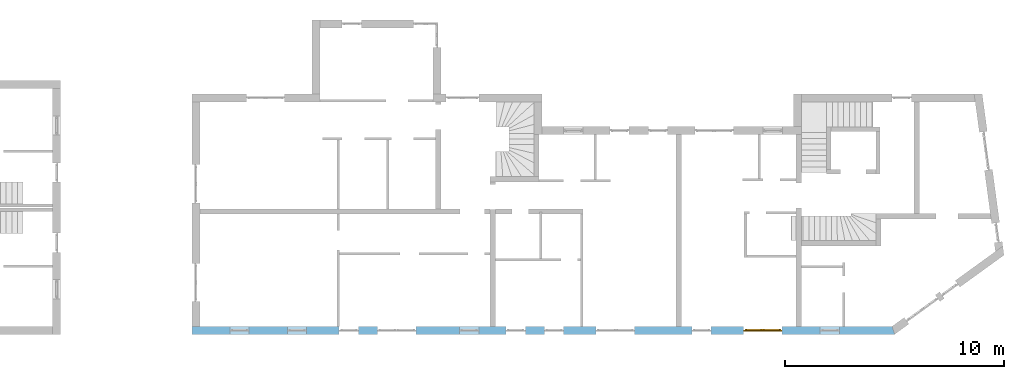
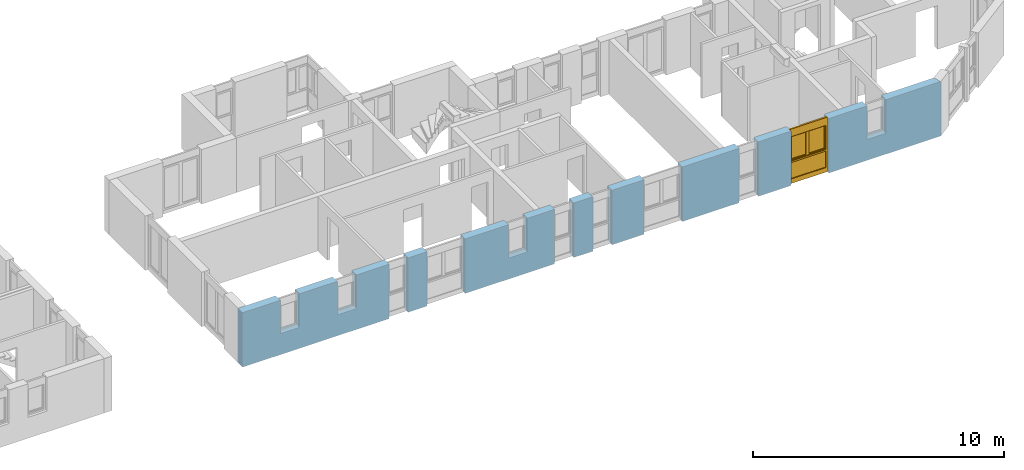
# One storey, part 23 of 42: 1 window, 11 openings, plus 1 element that does not belong to this part.
"""IFC2X3 building model written with IfcOpenShell, lengths in millimetres."""

from ifc_helpers import new_model, entity, si_unit, converted_unit, frame, frame_2d, origin, origin_with_axes, place, context, subcontext, project, spatial, polyline, rectangle, outline, extrude, faceted_brep, material, layer, layer_set, layer_usage, type_object, element, fill, save


model = new_model("IFC2X3")

# Units and contexts
model_context = context("Model", 3, precision=1e-05, world=origin())
body_context = subcontext(model_context, "Body", "Model", "MODEL_VIEW")
ifc_project = project(units=[si_unit("LENGTHUNIT", "METRE", prefix="MILLI"), converted_unit("PLANEANGLEUNIT", "DEGREE", entity("IfcPlaneAngleMeasure", 0.0174532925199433), si_unit("PLANEANGLEUNIT", "RADIAN"), dimensions=[0, 0, 0, 0, 0, 0, 0]), si_unit("AREAUNIT", "SQUARE_METRE"), si_unit("VOLUMEUNIT", "CUBIC_METRE")], contexts=[model_context])

# Building, storey
building_placement = place(None, origin())
building = spatial("IfcBuilding", under=ifc_project, at=building_placement, Name="Gebäude", CompositionType="ELEMENT")
storey_placement = place(building_placement, frame((0.0, 0.0, 2730.0), z_axis=(0.0, 0.0, 1.0), x_axis=(1.0, 0.0, 0.0)))
storey = spatial("IfcBuildingStorey", under=building, at=storey_placement, Name="OG.- Grundriss", CompositionType="ELEMENT", Elevation=2730.0)

# Wall, openings, window
ifc_material_1 = material(Name="Poroton")
ifc_layer = layer(ifc_material_1, 365.0000000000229)
ifc_layer_set = layer_set([ifc_layer])
ifc_layer_usage = layer_usage(ifc_layer_set, "AXIS2", "POSITIVE", 0.0)
wall_placement = place(storey_placement, frame((148357.7928067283, 125274.8877324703, 0.0), z_axis=(0.0, 0.0, 1.0), x_axis=(1.0, -2.749268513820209e-11, 0.0)))
wall = element("IfcWallStandardCase", 1, at=wall_placement, inside=storey, material=ifc_layer_usage, Name="<Unnamed Element>", context=body_context, shape_type="SweptSolid", body=[
    extrude(outline(polyline([(0.0, 0.0), (32144.99999877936, 0.0), (32026.74038666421, 365.0000000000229), (-1.003483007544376e-08, 365.0), (0.0, 0.0)])), origin_with_axes(), (0.0, 0.0, 1.0), 2650.0),
])
opening_1_placement = place(wall_placement, frame((22865.29648749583, -9.393166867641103e-11, 0.0), z_axis=(0.0, 1.0, 0.0), x_axis=(0.0, 0.0, 1.0)))
element("IfcOpeningElement", 2, at=opening_1_placement, cuts=wall, Name="Fensteröffnung", ObjectType="Opening", context=body_context, shape_type="SweptSolid", body=[
    extrude(rectangle(XDim=2650.0, YDim=885.0, at=frame_2d((1325.0, 442.5), x_axis=(1.0, 0.0))), origin_with_axes(), (0.0, 0.0, 1.0), 365.0000000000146),
])
opening_2_placement = place(wall_placement, frame((25240.29648749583, -1.030266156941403e-10, 0.0), z_axis=(0.0, 1.0, 0.0), x_axis=(0.0, 0.0, 1.0)))
opening_2 = element("IfcOpeningElement", 3, at=opening_2_placement, cuts=wall, Name="Fensteröffnung", ObjectType="Opening", context=body_context, shape_type="SweptSolid", body=[
    extrude(rectangle(XDim=2650.0, YDim=1760.0, at=frame_2d((1325.0, 880.0), x_axis=(1.0, 0.0))), origin_with_axes(), (0.0, 0.0, 1.0), 365.0000000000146),
])
opening_3_placement = place(wall_placement, frame((14365.26291869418, -5.847463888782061e-11, 0.0), z_axis=(0.0, 1.0, 0.0), x_axis=(0.0, 0.0, 1.0)))
element("IfcOpeningElement", 4, at=opening_3_placement, cuts=wall, Name="Fensteröffnung", ObjectType="Opening", context=body_context, shape_type="SweptSolid", body=[
    extrude(rectangle(XDim=2650.0, YDim=885.0, at=frame_2d((1325.0, 442.5), x_axis=(1.0, 0.0))), origin_with_axes(), (0.0, 0.0, 1.0), 365.0000000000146),
])
opening_4_placement = place(wall_placement, frame((16123.92212975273, -7.146586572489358e-11, 0.0), z_axis=(0.0, 1.0, 0.0), x_axis=(0.0, 0.0, 1.0)))
element("IfcOpeningElement", 5, at=opening_4_placement, cuts=wall, Name="Fensteröffnung", ObjectType="Opening", context=body_context, shape_type="SweptSolid", body=[
    extrude(rectangle(XDim=2650.0, YDim=885.0, at=frame_2d((1325.0, 442.5), x_axis=(1.0, 0.0))), origin_with_axes(), (0.0, 0.0, 1.0), 365.0000000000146),
])
opening_5_placement = place(wall_placement, frame((6739.999999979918, -3.114109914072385e-11, 0.0), z_axis=(0.0, 1.0, 0.0), x_axis=(0.0, 0.0, 1.0)))
element("IfcOpeningElement", 6, at=opening_5_placement, cuts=wall, Name="Fensteröffnung", ObjectType="Opening", context=body_context, shape_type="SweptSolid", body=[
    extrude(rectangle(XDim=2650.0, YDim=885.0, at=frame_2d((1325.0, 442.5), x_axis=(1.0, 0.0))), origin_with_axes(), (0.0, 0.0, 1.0), 365.0000000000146),
])
opening_6_placement = place(wall_placement, frame((8489.999999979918, -3.477907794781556e-11, 0.0), z_axis=(0.0, 1.0, 0.0), x_axis=(0.0, 0.0, 1.0)))
element("IfcOpeningElement", 7, at=opening_6_placement, cuts=wall, Name="Fensteröffnung", ObjectType="Opening", context=body_context, shape_type="SweptSolid", body=[
    extrude(rectangle(XDim=2650.0, YDim=1760.0, at=frame_2d((1325.0, 880.0), x_axis=(1.0, 0.0))), origin_with_axes(), (0.0, 0.0, 1.0), 365.0000000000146),
])
opening_7_placement = place(wall_placement, frame((1740.0, -3.114109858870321e-11, 1020.0), z_axis=(0.0, 1.0, 0.0), x_axis=(0.0, 0.0, 1.0)))
element("IfcOpeningElement", 8, at=opening_7_placement, cuts=wall, Name="Fensteröffnung", ObjectType="Opening", context=body_context, shape_type="SweptSolid", body=[
    extrude(rectangle(XDim=1630.0, YDim=885.0, at=frame_2d((815.0, 442.5), x_axis=(1.0, 0.0))), origin_with_axes(), (0.0, 0.0, 1.0), 365.0000000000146),
])
opening_8_placement = place(wall_placement, frame((4365.0, -7.494236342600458e-12, 1020.0), z_axis=(0.0, 1.0, 0.0), x_axis=(0.0, 0.0, 1.0)))
element("IfcOpeningElement", 9, at=opening_8_placement, cuts=wall, Name="Fensteröffnung", ObjectType="Opening", context=body_context, shape_type="SweptSolid", body=[
    extrude(rectangle(XDim=1630.0, YDim=885.0, at=frame_2d((815.0, 442.5), x_axis=(1.0, 0.0))), origin_with_axes(), (0.0, 0.0, 1.0), 365.0000000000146),
])
opening_9_placement = place(wall_placement, frame((12240.0, -5.296897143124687e-11, 1020.0), z_axis=(0.0, 1.0, 0.0), x_axis=(0.0, 0.0, 1.0)))
element("IfcOpeningElement", 10, at=opening_9_placement, cuts=wall, Name="Fensteröffnung", ObjectType="Opening", context=body_context, shape_type="SweptSolid", body=[
    extrude(rectangle(XDim=1630.0, YDim=885.0, at=frame_2d((815.0, 442.5), x_axis=(1.0, 0.0))), origin_with_axes(), (0.0, 0.0, 1.0), 365.0000000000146),
])
opening_10_placement = place(wall_placement, frame((18490.51063065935, -4.984640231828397e-11, 0.0), z_axis=(0.0, 1.0, 0.0), x_axis=(0.0, 0.0, 1.0)))
element("IfcOpeningElement", 11, at=opening_10_placement, cuts=wall, Name="Fensteröffnung", ObjectType="Opening", context=body_context, shape_type="SweptSolid", body=[
    extrude(rectangle(XDim=2650.0, YDim=1760.0, at=frame_2d((1325.0, 880.0), x_axis=(1.0, 0.0))), origin_with_axes(), (0.0, 0.0, 1.0), 365.0000000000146),
])
opening_11_placement = place(wall_placement, frame((28740.29648749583, -1.103025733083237e-10, 1020.0), z_axis=(0.0, 1.0, 0.0), x_axis=(0.0, 0.0, 1.0)))
element("IfcOpeningElement", 12, at=opening_11_placement, cuts=wall, Name="Fensteröffnung", ObjectType="Opening", context=body_context, shape_type="SweptSolid", body=[
    extrude(rectangle(XDim=1630.0, YDim=885.0, at=frame_2d((815.0, 442.5), x_axis=(1.0, 0.0))), origin_with_axes(), (0.0, 0.0, 1.0), 365.0000000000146),
])
ifc_material_2 = material()
window_style = type_object("IfcWindowStyle", Name="Fenster", ConstructionType="NOTDEFINED", OperationType="USERDEFINED", ParameterTakesPrecedence=False, Sizeable=False)
window_placement = place(opening_2_placement, frame((0.0, 0.0, 0.0), z_axis=(1.0, 0.0, 0.0), x_axis=(0.0, 1.0, 0.0)))
window = element("IfcWindow", 13, at=window_placement, inside=storey, type_object=window_style, material=ifc_material_2, Name="Fenster", OverallHeight=2650.0, OverallWidth=1760.0, context=body_context, shape_type="Brep", body=[
    faceted_brep([(1760.000000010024, 200.0000000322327, 2650.0), (1690.000000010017, 200.0000000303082, 2650.0), (1690.000000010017, 200.000000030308, -2.449293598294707e-15), (1760.000000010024, 200.0000000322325, -2.449293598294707e-15), (1760.000000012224, 119.9999999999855, 2.449293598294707e-15), (1690.000000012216, 119.999999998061, 2.449293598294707e-15), (1690.000000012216, 119.9999999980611, 2650.0), (1760.000000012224, 119.9999999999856, 2650.0), (1760.000000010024, 200.0000000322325, -2.449293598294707e-15), (1760.000000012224, 119.9999999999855, 2.449293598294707e-15), (1760.000000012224, 119.9999999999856, 2650.0), (1760.000000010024, 200.0000000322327, 2650.0), (1690.000000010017, 200.000000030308, -2.449293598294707e-15), (1690.000000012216, 119.999999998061, 2.449293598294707e-15), (1760.000000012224, 119.9999999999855, 2.449293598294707e-15), (1760.000000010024, 200.0000000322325, -2.449293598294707e-15), (1690.000000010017, 200.0000000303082, 2650.0), (1690.000000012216, 119.9999999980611, 2650.0), (1690.000000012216, 119.999999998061, 2.449293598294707e-15), (1690.000000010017, 200.000000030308, -2.449293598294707e-15), (1760.000000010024, 200.0000000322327, 2650.0), (1760.000000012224, 119.9999999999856, 2650.0), (1690.000000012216, 119.9999999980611, 2650.0), (1690.000000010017, 200.0000000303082, 2650.0)], [[[0, 1, 2, 3]], [[4, 5, 6, 7]], [[8, 9, 10, 11]], [[12, 13, 14, 15]], [[16, 17, 18, 19]], [[20, 21, 22, 23]]], orient=[[False], [False], [False], [False], [False], [False]]),
    faceted_brep([(69.99999999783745, 199.99999998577, 2650.0), (-2.17028173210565e-09, 199.9999999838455, 2650.0), (-2.17028173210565e-09, 199.9999999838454, -2.449293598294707e-15), (69.99999999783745, 199.9999999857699, -2.449293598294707e-15), (70.00000000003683, 119.9999999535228, 2.449293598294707e-15), (2.91038304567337e-11, 119.9999999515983, 2.449293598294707e-15), (2.91038304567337e-11, 119.9999999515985, 2650.0), (70.00000000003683, 119.999999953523, 2650.0), (69.99999999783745, 199.9999999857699, -2.449293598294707e-15), (70.00000000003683, 119.9999999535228, 2.449293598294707e-15), (70.00000000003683, 119.999999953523, 2650.0), (69.99999999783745, 199.99999998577, 2650.0), (-2.17028173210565e-09, 199.9999999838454, -2.449293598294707e-15), (2.91038304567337e-11, 119.9999999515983, 2.449293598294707e-15), (70.00000000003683, 119.9999999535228, 2.449293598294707e-15), (69.99999999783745, 199.9999999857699, -2.449293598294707e-15), (-2.17028173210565e-09, 199.9999999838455, 2650.0), (2.91038304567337e-11, 119.9999999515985, 2650.0), (2.91038304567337e-11, 119.9999999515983, 2.449293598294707e-15), (-2.17028173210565e-09, 199.9999999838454, -2.449293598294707e-15), (69.99999999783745, 199.99999998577, 2650.0), (70.00000000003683, 119.999999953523, 2650.0), (2.91038304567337e-11, 119.9999999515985, 2650.0), (-2.17028173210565e-09, 199.9999999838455, 2650.0)], [[[0, 1, 2, 3]], [[4, 5, 6, 7]], [[8, 9, 10, 11]], [[12, 13, 14, 15]], [[16, 17, 18, 19]], [[20, 21, 22, 23]]], orient=[[False], [False], [False], [False], [False], [False]]),
    faceted_brep([(1690.000000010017, 200.000000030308, 220.0), (69.99999999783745, 199.9999999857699, 220.0), (69.99999999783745, 199.9999999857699, -2.449293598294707e-15), (1690.000000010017, 200.000000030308, -2.449293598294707e-15), (1690.000000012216, 119.999999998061, 2.449293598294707e-15), (70.00000000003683, 119.9999999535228, 2.449293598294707e-15), (70.00000000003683, 119.9999999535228, 220.0), (1690.000000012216, 119.999999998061, 220.0), (1690.000000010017, 200.000000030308, -2.449293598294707e-15), (1690.000000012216, 119.999999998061, 2.449293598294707e-15), (1690.000000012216, 119.999999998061, 220.0), (1690.000000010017, 200.000000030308, 220.0), (69.99999999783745, 199.9999999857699, -2.449293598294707e-15), (70.00000000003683, 119.9999999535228, 2.449293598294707e-15), (1690.000000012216, 119.999999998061, 2.449293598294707e-15), (1690.000000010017, 200.000000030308, -2.449293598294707e-15), (69.99999999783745, 199.9999999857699, 220.0), (70.00000000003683, 119.9999999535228, 220.0), (70.00000000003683, 119.9999999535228, 2.449293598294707e-15), (69.99999999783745, 199.9999999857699, -2.449293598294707e-15), (1690.000000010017, 200.000000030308, 220.0), (1690.000000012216, 119.999999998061, 220.0), (70.00000000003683, 119.9999999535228, 220.0), (69.99999999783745, 199.9999999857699, 220.0)], [[[0, 1, 2, 3]], [[4, 5, 6, 7]], [[8, 9, 10, 11]], [[12, 13, 14, 15]], [[16, 17, 18, 19]], [[20, 21, 22, 23]]], orient=[[False], [False], [False], [False], [False], [False]]),
    faceted_brep([(1690.000000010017, 200.0000000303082, 2650.0), (69.99999999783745, 199.9999999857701, 2650.0), (69.99999999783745, 199.99999998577, 2280.0), (1690.000000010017, 200.0000000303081, 2280.0), (1690.000000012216, 119.9999999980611, 2280.0), (70.00000000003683, 119.999999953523, 2280.0), (70.00000000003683, 119.999999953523, 2650.0), (1690.000000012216, 119.9999999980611, 2650.0), (1690.000000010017, 200.0000000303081, 2280.0), (1690.000000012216, 119.9999999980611, 2280.0), (1690.000000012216, 119.9999999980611, 2650.0), (1690.000000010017, 200.0000000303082, 2650.0), (69.99999999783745, 199.99999998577, 2280.0), (70.00000000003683, 119.999999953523, 2280.0), (1690.000000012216, 119.9999999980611, 2280.0), (1690.000000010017, 200.0000000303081, 2280.0), (69.99999999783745, 199.9999999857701, 2650.0), (70.00000000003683, 119.999999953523, 2650.0), (70.00000000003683, 119.999999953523, 2280.0), (69.99999999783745, 199.99999998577, 2280.0), (1690.000000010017, 200.0000000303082, 2650.0), (1690.000000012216, 119.9999999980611, 2650.0), (70.00000000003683, 119.999999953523, 2650.0), (69.99999999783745, 199.9999999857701, 2650.0)], [[[0, 1, 2, 3]], [[4, 5, 6, 7]], [[8, 9, 10, 11]], [[12, 13, 14, 15]], [[16, 17, 18, 19]], [[20, 21, 22, 23]]], orient=[[False], [False], [False], [False], [False], [False]]),
    faceted_brep([(1690.000000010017, 200.0000000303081, 1090.0), (69.99999999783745, 199.9999999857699, 1090.0), (69.99999999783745, 199.9999999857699, 1020.0), (1690.000000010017, 200.0000000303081, 1020.0), (1690.000000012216, 119.999999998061, 1020.0), (70.00000000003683, 119.9999999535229, 1020.0), (70.00000000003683, 119.9999999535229, 1090.0), (1690.000000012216, 119.999999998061, 1090.0), (1690.000000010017, 200.0000000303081, 1020.0), (1690.000000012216, 119.999999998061, 1020.0), (1690.000000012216, 119.999999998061, 1090.0), (1690.000000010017, 200.0000000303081, 1090.0), (69.99999999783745, 199.9999999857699, 1020.0), (70.00000000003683, 119.9999999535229, 1020.0), (1690.000000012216, 119.999999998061, 1020.0), (1690.000000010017, 200.0000000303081, 1020.0), (69.99999999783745, 199.9999999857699, 1090.0), (70.00000000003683, 119.9999999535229, 1090.0), (70.00000000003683, 119.9999999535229, 1020.0), (69.99999999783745, 199.9999999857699, 1020.0), (1690.000000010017, 200.0000000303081, 1090.0), (1690.000000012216, 119.999999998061, 1090.0), (70.00000000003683, 119.9999999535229, 1090.0), (69.99999999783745, 199.9999999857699, 1090.0)], [[[0, 1, 2, 3]], [[4, 5, 6, 7]], [[8, 9, 10, 11]], [[12, 13, 14, 15]], [[16, 17, 18, 19]], [[20, 21, 22, 23]]], orient=[[False], [False], [False], [False], [False], [False]]),
    faceted_brep([(1690.000000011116, 160.0000000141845, 220.0), (1690.000000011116, 160.0000000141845, 1020.0), (69.99999999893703, 159.9999999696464, 1020.0), (69.99999999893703, 159.9999999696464, 220.0), (1690.000000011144, 159.0000000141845, 220.0), (69.99999999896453, 158.9999999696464, 220.0), (69.99999999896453, 158.9999999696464, 1020.0), (1690.000000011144, 159.0000000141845, 1020.0), (1690.000000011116, 160.0000000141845, 220.0), (1690.000000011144, 159.0000000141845, 220.0), (1690.000000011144, 159.0000000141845, 1020.0), (1690.000000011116, 160.0000000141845, 1020.0), (1690.000000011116, 160.0000000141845, 1020.0), (1690.000000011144, 159.0000000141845, 1020.0), (69.99999999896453, 158.9999999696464, 1020.0), (69.99999999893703, 159.9999999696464, 1020.0), (69.99999999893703, 159.9999999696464, 1020.0), (69.99999999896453, 158.9999999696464, 1020.0), (69.99999999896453, 158.9999999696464, 220.0), (69.99999999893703, 159.9999999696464, 220.0), (69.99999999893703, 159.9999999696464, 220.0), (69.99999999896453, 158.9999999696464, 220.0), (1690.000000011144, 159.0000000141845, 220.0), (1690.000000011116, 160.0000000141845, 220.0)], [[[0, 1, 2, 3]], [[4, 5, 6, 7]], [[8, 9, 10, 11]], [[12, 13, 14, 15]], [[16, 17, 18, 19]], [[20, 21, 22, 23]]], orient=[[False], [False], [False], [False], [False], [False]]),
    faceted_brep([(1710.000000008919, 240.0000000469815, 2300.0), (1640.000000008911, 240.000000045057, 2300.0), (1640.000000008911, 240.0000000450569, 1070.0), (1710.000000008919, 240.0000000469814, 1070.0), (1710.000000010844, 170.0000000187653, 1070.0), (1640.000000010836, 170.0000000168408, 1070.0), (1640.000000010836, 170.0000000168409, 2300.0), (1710.000000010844, 170.0000000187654, 2300.0), (1710.000000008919, 240.0000000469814, 1070.0), (1710.000000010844, 170.0000000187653, 1070.0), (1710.000000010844, 170.0000000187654, 2300.0), (1710.000000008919, 240.0000000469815, 2300.0), (1640.000000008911, 240.0000000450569, 1070.0), (1640.000000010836, 170.0000000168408, 1070.0), (1710.000000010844, 170.0000000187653, 1070.0), (1710.000000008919, 240.0000000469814, 1070.0), (1640.000000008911, 240.000000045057, 2300.0), (1640.000000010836, 170.0000000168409, 2300.0), (1640.000000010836, 170.0000000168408, 1070.0), (1640.000000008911, 240.0000000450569, 1070.0), (1710.000000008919, 240.0000000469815, 2300.0), (1710.000000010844, 170.0000000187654, 2300.0), (1640.000000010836, 170.0000000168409, 2300.0), (1640.000000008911, 240.000000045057, 2300.0)], [[[0, 1, 2, 3]], [[4, 5, 6, 7]], [[8, 9, 10, 11]], [[12, 13, 14, 15]], [[16, 17, 18, 19]], [[20, 21, 22, 23]]], orient=[[False], [False], [False], [False], [False], [False]]),
    faceted_brep([(930.5000000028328, 240.000000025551, 2300.0), (860.5000000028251, 240.0000000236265, 2300.0), (860.5000000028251, 240.0000000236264, 1070.0), (930.5000000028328, 240.0000000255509, 1070.0), (930.5000000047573, 169.9999999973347, 1070.0), (860.5000000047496, 169.9999999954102, 1070.0), (860.5000000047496, 169.9999999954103, 2300.0), (930.5000000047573, 169.9999999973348, 2300.0), (930.5000000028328, 240.0000000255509, 1070.0), (930.5000000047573, 169.9999999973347, 1070.0), (930.5000000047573, 169.9999999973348, 2300.0), (930.5000000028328, 240.000000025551, 2300.0), (860.5000000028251, 240.0000000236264, 1070.0), (860.5000000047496, 169.9999999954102, 1070.0), (930.5000000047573, 169.9999999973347, 1070.0), (930.5000000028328, 240.0000000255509, 1070.0), (860.5000000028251, 240.0000000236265, 2300.0), (860.5000000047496, 169.9999999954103, 2300.0), (860.5000000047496, 169.9999999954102, 1070.0), (860.5000000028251, 240.0000000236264, 1070.0), (930.5000000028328, 240.000000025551, 2300.0), (930.5000000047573, 169.9999999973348, 2300.0), (860.5000000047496, 169.9999999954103, 2300.0), (860.5000000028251, 240.0000000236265, 2300.0)], [[[0, 1, 2, 3]], [[4, 5, 6, 7]], [[8, 9, 10, 11]], [[12, 13, 14, 15]], [[16, 17, 18, 19]], [[20, 21, 22, 23]]], orient=[[False], [False], [False], [False], [False], [False]]),
    faceted_brep([(1640.000000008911, 240.0000000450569, 1140.0), (930.5000000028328, 240.0000000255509, 1140.0), (930.5000000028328, 240.0000000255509, 1070.0), (1640.000000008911, 240.0000000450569, 1070.0), (1640.000000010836, 170.0000000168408, 1070.0), (930.5000000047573, 169.9999999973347, 1070.0), (930.5000000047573, 169.9999999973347, 1140.0), (1640.000000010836, 170.0000000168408, 1140.0), (1640.000000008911, 240.0000000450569, 1070.0), (1640.000000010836, 170.0000000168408, 1070.0), (1640.000000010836, 170.0000000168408, 1140.0), (1640.000000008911, 240.0000000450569, 1140.0), (930.5000000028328, 240.0000000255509, 1070.0), (930.5000000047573, 169.9999999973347, 1070.0), (1640.000000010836, 170.0000000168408, 1070.0), (1640.000000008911, 240.0000000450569, 1070.0), (930.5000000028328, 240.0000000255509, 1140.0), (930.5000000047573, 169.9999999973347, 1140.0), (930.5000000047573, 169.9999999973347, 1070.0), (930.5000000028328, 240.0000000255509, 1070.0), (1640.000000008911, 240.0000000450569, 1140.0), (1640.000000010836, 170.0000000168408, 1140.0), (930.5000000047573, 169.9999999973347, 1140.0), (930.5000000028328, 240.0000000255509, 1140.0)], [[[0, 1, 2, 3]], [[4, 5, 6, 7]], [[8, 9, 10, 11]], [[12, 13, 14, 15]], [[16, 17, 18, 19]], [[20, 21, 22, 23]]], orient=[[False], [False], [False], [False], [False], [False]]),
    faceted_brep([(1640.000000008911, 240.000000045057, 2300.0), (930.5000000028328, 240.000000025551, 2300.0), (930.5000000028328, 240.000000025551, 2230.0), (1640.000000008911, 240.000000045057, 2230.0), (1640.000000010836, 170.0000000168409, 2230.0), (930.5000000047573, 169.9999999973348, 2230.0), (930.5000000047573, 169.9999999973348, 2300.0), (1640.000000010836, 170.0000000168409, 2300.0), (1640.000000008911, 240.000000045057, 2230.0), (1640.000000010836, 170.0000000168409, 2230.0), (1640.000000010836, 170.0000000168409, 2300.0), (1640.000000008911, 240.000000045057, 2300.0), (930.5000000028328, 240.000000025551, 2230.0), (930.5000000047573, 169.9999999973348, 2230.0), (1640.000000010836, 170.0000000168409, 2230.0), (1640.000000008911, 240.000000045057, 2230.0), (930.5000000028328, 240.000000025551, 2300.0), (930.5000000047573, 169.9999999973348, 2300.0), (930.5000000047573, 169.9999999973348, 2230.0), (930.5000000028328, 240.000000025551, 2230.0), (1640.000000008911, 240.000000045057, 2300.0), (1640.000000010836, 170.0000000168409, 2300.0), (930.5000000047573, 169.9999999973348, 2300.0), (930.5000000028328, 240.000000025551, 2300.0)], [[[0, 1, 2, 3]], [[4, 5, 6, 7]], [[8, 9, 10, 11]], [[12, 13, 14, 15]], [[16, 17, 18, 19]], [[20, 21, 22, 23]]], orient=[[False], [False], [False], [False], [False], [False]]),
    faceted_brep([(859.500000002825, 240.000000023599, 2300.0), (789.5000000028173, 240.0000000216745, 2300.0), (789.5000000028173, 240.0000000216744, 1070.0), (859.500000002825, 240.0000000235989, 1070.0), (859.5000000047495, 169.9999999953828, 1070.0), (789.5000000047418, 169.9999999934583, 1070.0), (789.5000000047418, 169.9999999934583, 2300.0), (859.5000000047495, 169.9999999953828, 2300.0), (859.500000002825, 240.0000000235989, 1070.0), (859.5000000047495, 169.9999999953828, 1070.0), (859.5000000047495, 169.9999999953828, 2300.0), (859.500000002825, 240.000000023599, 2300.0), (789.5000000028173, 240.0000000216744, 1070.0), (789.5000000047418, 169.9999999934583, 1070.0), (859.5000000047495, 169.9999999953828, 1070.0), (859.500000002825, 240.0000000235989, 1070.0), (789.5000000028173, 240.0000000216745, 2300.0), (789.5000000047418, 169.9999999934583, 2300.0), (789.5000000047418, 169.9999999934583, 1070.0), (789.5000000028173, 240.0000000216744, 1070.0), (859.500000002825, 240.000000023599, 2300.0), (859.5000000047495, 169.9999999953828, 2300.0), (789.5000000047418, 169.9999999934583, 2300.0), (789.5000000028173, 240.0000000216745, 2300.0)], [[[0, 1, 2, 3]], [[4, 5, 6, 7]], [[8, 9, 10, 11]], [[12, 13, 14, 15]], [[16, 17, 18, 19]], [[20, 21, 22, 23]]], orient=[[False], [False], [False], [False], [False], [False]]),
    faceted_brep([(119.9999999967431, 240.0000000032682, 2300.0), (49.99999999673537, 240.0000000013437, 2300.0), (49.99999999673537, 240.0000000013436, 1070.0), (119.9999999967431, 240.0000000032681, 1070.0), (119.9999999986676, 169.9999999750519, 1070.0), (49.99999999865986, 169.9999999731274, 1070.0), (49.99999999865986, 169.9999999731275, 2300.0), (119.9999999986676, 169.999999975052, 2300.0), (119.9999999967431, 240.0000000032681, 1070.0), (119.9999999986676, 169.9999999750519, 1070.0), (119.9999999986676, 169.999999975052, 2300.0), (119.9999999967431, 240.0000000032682, 2300.0), (49.99999999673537, 240.0000000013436, 1070.0), (49.99999999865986, 169.9999999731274, 1070.0), (119.9999999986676, 169.9999999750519, 1070.0), (119.9999999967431, 240.0000000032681, 1070.0), (49.99999999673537, 240.0000000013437, 2300.0), (49.99999999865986, 169.9999999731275, 2300.0), (49.99999999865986, 169.9999999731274, 1070.0), (49.99999999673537, 240.0000000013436, 1070.0), (119.9999999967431, 240.0000000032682, 2300.0), (119.9999999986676, 169.999999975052, 2300.0), (49.99999999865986, 169.9999999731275, 2300.0), (49.99999999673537, 240.0000000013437, 2300.0)], [[[0, 1, 2, 3]], [[4, 5, 6, 7]], [[8, 9, 10, 11]], [[12, 13, 14, 15]], [[16, 17, 18, 19]], [[20, 21, 22, 23]]], orient=[[False], [False], [False], [False], [False], [False]]),
    faceted_brep([(789.5000000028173, 240.0000000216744, 1140.0), (119.9999999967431, 240.0000000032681, 1140.0), (119.9999999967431, 240.0000000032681, 1070.0), (789.5000000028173, 240.0000000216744, 1070.0), (789.5000000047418, 169.9999999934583, 1070.0), (119.9999999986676, 169.9999999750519, 1070.0), (119.9999999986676, 169.9999999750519, 1140.0), (789.5000000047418, 169.9999999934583, 1140.0), (789.5000000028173, 240.0000000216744, 1070.0), (789.5000000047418, 169.9999999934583, 1070.0), (789.5000000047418, 169.9999999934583, 1140.0), (789.5000000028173, 240.0000000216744, 1140.0), (119.9999999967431, 240.0000000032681, 1070.0), (119.9999999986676, 169.9999999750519, 1070.0), (789.5000000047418, 169.9999999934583, 1070.0), (789.5000000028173, 240.0000000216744, 1070.0), (119.9999999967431, 240.0000000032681, 1140.0), (119.9999999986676, 169.9999999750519, 1140.0), (119.9999999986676, 169.9999999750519, 1070.0), (119.9999999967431, 240.0000000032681, 1070.0), (789.5000000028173, 240.0000000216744, 1140.0), (789.5000000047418, 169.9999999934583, 1140.0), (119.9999999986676, 169.9999999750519, 1140.0), (119.9999999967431, 240.0000000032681, 1140.0)], [[[0, 1, 2, 3]], [[4, 5, 6, 7]], [[8, 9, 10, 11]], [[12, 13, 14, 15]], [[16, 17, 18, 19]], [[20, 21, 22, 23]]], orient=[[False], [False], [False], [False], [False], [False]]),
    faceted_brep([(789.5000000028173, 240.0000000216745, 2300.0), (119.9999999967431, 240.0000000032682, 2300.0), (119.9999999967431, 240.0000000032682, 2230.0), (789.5000000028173, 240.0000000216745, 2230.0), (789.5000000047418, 169.9999999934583, 2230.0), (119.9999999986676, 169.999999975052, 2230.0), (119.9999999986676, 169.999999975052, 2300.0), (789.5000000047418, 169.9999999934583, 2300.0), (789.5000000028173, 240.0000000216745, 2230.0), (789.5000000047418, 169.9999999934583, 2230.0), (789.5000000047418, 169.9999999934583, 2300.0), (789.5000000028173, 240.0000000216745, 2300.0), (119.9999999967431, 240.0000000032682, 2230.0), (119.9999999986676, 169.999999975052, 2230.0), (789.5000000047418, 169.9999999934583, 2230.0), (789.5000000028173, 240.0000000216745, 2230.0), (119.9999999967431, 240.0000000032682, 2300.0), (119.9999999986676, 169.999999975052, 2300.0), (119.9999999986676, 169.999999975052, 2230.0), (119.9999999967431, 240.0000000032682, 2230.0), (789.5000000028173, 240.0000000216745, 2300.0), (789.5000000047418, 169.9999999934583, 2300.0), (119.9999999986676, 169.999999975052, 2300.0), (119.9999999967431, 240.0000000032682, 2300.0)], [[[0, 1, 2, 3]], [[4, 5, 6, 7]], [[8, 9, 10, 11]], [[12, 13, 14, 15]], [[16, 17, 18, 19]], [[20, 21, 22, 23]]], orient=[[False], [False], [False], [False], [False], [False]]),
    faceted_brep([(1640.000000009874, 205.0000000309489, 1140.0), (1640.000000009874, 205.000000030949, 2230.0), (930.5000000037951, 205.0000000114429, 2230.0), (930.5000000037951, 205.0000000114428, 1140.0), (1640.000000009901, 204.0000000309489, 1140.0), (930.5000000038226, 204.0000000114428, 1140.0), (930.5000000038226, 204.0000000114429, 2230.0), (1640.000000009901, 204.000000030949, 2230.0), (1640.000000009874, 205.0000000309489, 1140.0), (1640.000000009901, 204.0000000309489, 1140.0), (1640.000000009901, 204.000000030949, 2230.0), (1640.000000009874, 205.000000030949, 2230.0), (1640.000000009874, 205.000000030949, 2230.0), (1640.000000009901, 204.000000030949, 2230.0), (930.5000000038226, 204.0000000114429, 2230.0), (930.5000000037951, 205.0000000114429, 2230.0), (930.5000000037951, 205.0000000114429, 2230.0), (930.5000000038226, 204.0000000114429, 2230.0), (930.5000000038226, 204.0000000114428, 1140.0), (930.5000000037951, 205.0000000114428, 1140.0), (930.5000000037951, 205.0000000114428, 1140.0), (930.5000000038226, 204.0000000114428, 1140.0), (1640.000000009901, 204.0000000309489, 1140.0), (1640.000000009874, 205.0000000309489, 1140.0)], [[[0, 1, 2, 3]], [[4, 5, 6, 7]], [[8, 9, 10, 11]], [[12, 13, 14, 15]], [[16, 17, 18, 19]], [[20, 21, 22, 23]]], orient=[[False], [False], [False], [False], [False], [False]]),
    faceted_brep([(789.5000000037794, 205.0000000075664, 1140.0), (789.5000000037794, 205.0000000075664, 2230.0), (119.9999999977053, 204.9999999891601, 2230.0), (119.9999999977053, 204.99999998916, 1140.0), (789.5000000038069, 204.0000000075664, 1140.0), (119.9999999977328, 203.99999998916, 1140.0), (119.9999999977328, 203.9999999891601, 2230.0), (789.5000000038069, 204.0000000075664, 2230.0), (789.5000000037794, 205.0000000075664, 1140.0), (789.5000000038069, 204.0000000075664, 1140.0), (789.5000000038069, 204.0000000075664, 2230.0), (789.5000000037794, 205.0000000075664, 2230.0), (789.5000000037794, 205.0000000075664, 2230.0), (789.5000000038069, 204.0000000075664, 2230.0), (119.9999999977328, 203.9999999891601, 2230.0), (119.9999999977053, 204.9999999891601, 2230.0), (119.9999999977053, 204.9999999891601, 2230.0), (119.9999999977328, 203.9999999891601, 2230.0), (119.9999999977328, 203.99999998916, 1140.0), (119.9999999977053, 204.99999998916, 1140.0), (119.9999999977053, 204.99999998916, 1140.0), (119.9999999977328, 203.99999998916, 1140.0), (789.5000000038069, 204.0000000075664, 1140.0), (789.5000000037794, 205.0000000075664, 1140.0)], [[[0, 1, 2, 3]], [[4, 5, 6, 7]], [[8, 9, 10, 11]], [[12, 13, 14, 15]], [[16, 17, 18, 19]], [[20, 21, 22, 23]]], orient=[[False], [False], [False], [False], [False], [False]]),
])
fill(opening_2, window)

save(model, "model.ifc")
